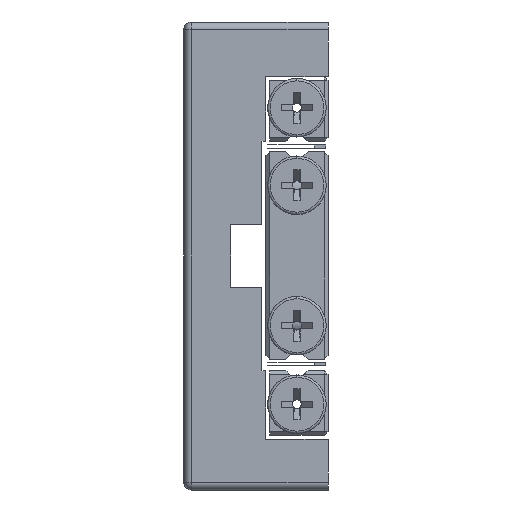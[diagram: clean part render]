
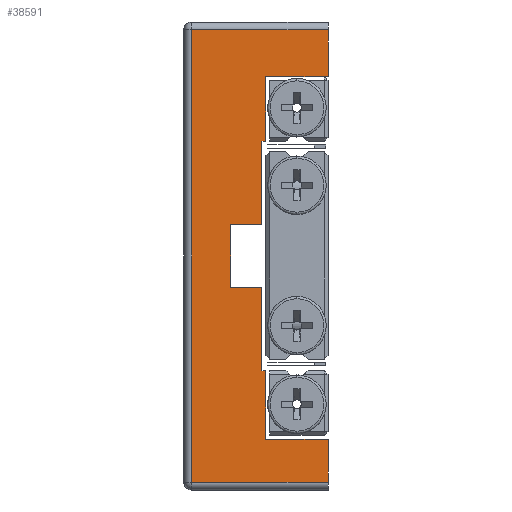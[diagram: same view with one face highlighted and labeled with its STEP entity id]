
A CAD part, left-side view. The second image highlights one B-rep face of the part: STEP entity #38591.
In plain terms, the highlighted planar face has unit normal (-1, 0, 0).
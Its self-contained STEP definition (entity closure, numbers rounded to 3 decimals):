
#936 = CARTESIAN_POINT ( 'NONE',  ( -92.084, -3.57, -30. ) ) ;
#943 = PLANE ( 'NONE',  #47008 ) ;
#945 = DIRECTION ( 'NONE',  ( 1., 0., 0. ) ) ;
#946 = DIRECTION ( 'NONE',  ( 0., 0., -1. ) ) ;
#6443 = VERTEX_POINT ( 'NONE', #10920 ) ;
#6680 = CARTESIAN_POINT ( 'NONE',  ( -92.084, -9.57, -4. ) ) ;
#6686 = CARTESIAN_POINT ( 'NONE',  ( -92.084, -13.57, 4. ) ) ;
#6720 = DIRECTION ( 'NONE',  ( 0., 0., -1. ) ) ;
#6797 = DIRECTION ( 'NONE',  ( 0., 0., -1. ) ) ;
#6807 = CARTESIAN_POINT ( 'NONE',  ( -92.084, -14.07, -23.5 ) ) ;
#6809 = DIRECTION ( 'NONE',  ( 0., 1., 0. ) ) ;
#6851 = CARTESIAN_POINT ( 'NONE',  ( -92.084, -9.57, 4. ) ) ;
#6854 = DIRECTION ( 'NONE',  ( 0., 1., 0. ) ) ;
#6869 = CARTESIAN_POINT ( 'NONE',  ( -92.084, -13.57, 14.7 ) ) ;
#6881 = DIRECTION ( 'NONE',  ( 0., -1., 0. ) ) ;
#6887 = CARTESIAN_POINT ( 'NONE',  ( -92.084, -13.57, -4. ) ) ;
#6890 = DIRECTION ( 'NONE',  ( 0., 0., -1. ) ) ;
#6895 = CARTESIAN_POINT ( 'NONE',  ( -92.084, -13.57, -14.7 ) ) ;
#6906 = DIRECTION ( 'NONE',  ( 0., 0., -1. ) ) ;
#6937 = DIRECTION ( 'NONE',  ( 0., -1., 0. ) ) ;
#6982 = CARTESIAN_POINT ( 'NONE',  ( -92.084, -14.07, -14.7 ) ) ;
#8758 = ORIENTED_EDGE ( 'NONE', *, *, #10501, .F. ) ;
#8792 = ORIENTED_EDGE ( 'NONE', *, *, #11226, .T. ) ;
#8793 = ORIENTED_EDGE ( 'NONE', *, *, #11224, .T. ) ;
#9633 = ORIENTED_EDGE ( 'NONE', *, *, #18861, .T. ) ;
#9639 = ORIENTED_EDGE ( 'NONE', *, *, #18940, .F. ) ;
#10439 = EDGE_CURVE ( 'NONE', #37112, #37034, #25541, .T. ) ;
#10456 = EDGE_CURVE ( 'NONE', #37034, #36866, #25565, .T. ) ;
#10471 = EDGE_CURVE ( 'NONE', #37192, #37040, #25591, .T. ) ;
#10475 = EDGE_CURVE ( 'NONE', #36866, #37192, #25598, .T. ) ;
#10486 = EDGE_CURVE ( 'NONE', #37040, #37109, #25615, .T. ) ;
#10492 = EDGE_CURVE ( 'NONE', #37109, #37342, #25623, .T. ) ;
#10501 = EDGE_CURVE ( 'NONE', #37342, #6443, #25637, .T. ) ;
#10508 = EDGE_CURVE ( 'NONE', #6443, #37092, #25647, .T. ) ;
#10920 = CARTESIAN_POINT ( 'NONE',  ( -92.084, -14.07, -14.7 ) ) ;
#11224 = EDGE_CURVE ( 'NONE', #37094, #27798, #19584, .T. ) ;
#11225 = EDGE_CURVE ( 'NONE', #37092, #27792, #19583, .T. ) ;
#11226 = EDGE_CURVE ( 'NONE', #27798, #27789, #19588, .T. ) ;
#11229 = EDGE_CURVE ( 'NONE', #27789, #27792, #19586, .T. ) ;
#11250 = EDGE_CURVE ( 'NONE', #36924, #36874, #19621, .T. ) ;
#14535 = EDGE_LOOP ( 'NONE', ( #8793, #8792, #31336, #31337, #31335, #8758, #31334, #31331, #31338, #31332, #31333, #31339, #31307, #9639, #31228, #9633 ) ) ;
#18861 = EDGE_CURVE ( 'NONE', #36874, #37094, #33317, .T. ) ;
#18940 = EDGE_CURVE ( 'NONE', #36924, #37089, #33587, .T. ) ;
#18955 = EDGE_CURVE ( 'NONE', #37089, #37112, #33639, .T. ) ;
#19583 = LINE ( 'NONE', #20486, #19589 ) ;
#19584 = LINE ( 'NONE', #20491, #19587 ) ;
#19586 = LINE ( 'NONE', #20505, #19596 ) ;
#19587 = VECTOR ( 'NONE', #20493, 1000. ) ;
#19588 = LINE ( 'NONE', #20497, #19591 ) ;
#19589 = VECTOR ( 'NONE', #20496, 1000. ) ;
#19591 = VECTOR ( 'NONE', #20499, 1000. ) ;
#19596 = VECTOR ( 'NONE', #20492, 1000. ) ;
#19621 = LINE ( 'NONE', #20662, #19627 ) ;
#19627 = VECTOR ( 'NONE', #20445, 1000. ) ;
#20445 = DIRECTION ( 'NONE',  ( 0., 0., 1. ) ) ;
#20486 = CARTESIAN_POINT ( 'NONE',  ( -92.084, -14.07, -23.5 ) ) ;
#20491 = CARTESIAN_POINT ( 'NONE',  ( -92.084, -4.57, -30. ) ) ;
#20492 = DIRECTION ( 'NONE',  ( 0., 0., 1. ) ) ;
#20493 = DIRECTION ( 'NONE',  ( 0., 0., -1. ) ) ;
#20496 = DIRECTION ( 'NONE',  ( 0., -1., 0. ) ) ;
#20497 = CARTESIAN_POINT ( 'NONE',  ( -92.084, -3.57, -29. ) ) ;
#20499 = DIRECTION ( 'NONE',  ( 0., -1., 0. ) ) ;
#20505 = CARTESIAN_POINT ( 'NONE',  ( -92.084, -22.07, -30. ) ) ;
#20662 = CARTESIAN_POINT ( 'NONE',  ( -92.084, -22.07, -30. ) ) ;
#25541 = LINE ( 'NONE', #6869, #25545 ) ;
#25545 = VECTOR ( 'NONE', #6854, 1000. ) ;
#25565 = LINE ( 'NONE', #6686, #25574 ) ;
#25574 = VECTOR ( 'NONE', #6720, 1000. ) ;
#25591 = LINE ( 'NONE', #6680, #25596 ) ;
#25596 = VECTOR ( 'NONE', #6797, 1000. ) ;
#25598 = LINE ( 'NONE', #6851, #25602 ) ;
#25602 = VECTOR ( 'NONE', #6809, 1000. ) ;
#25615 = LINE ( 'NONE', #6887, #25618 ) ;
#25618 = VECTOR ( 'NONE', #6881, 1000. ) ;
#25623 = LINE ( 'NONE', #6895, #25627 ) ;
#25627 = VECTOR ( 'NONE', #6906, 1000. ) ;
#25637 = LINE ( 'NONE', #6982, #25640 ) ;
#25640 = VECTOR ( 'NONE', #6937, 1000. ) ;
#25647 = LINE ( 'NONE', #6807, #25652 ) ;
#25652 = VECTOR ( 'NONE', #6890, 1000. ) ;
#27789 = VERTEX_POINT ( 'NONE', #49860 ) ;
#27792 = VERTEX_POINT ( 'NONE', #49863 ) ;
#27798 = VERTEX_POINT ( 'NONE', #49869 ) ;
#29311 = CARTESIAN_POINT ( 'NONE',  ( -92.084, -14.07, 23. ) ) ;
#29319 = DIRECTION ( 'NONE',  ( 0., 1., 0. ) ) ;
#29349 = CARTESIAN_POINT ( 'NONE',  ( -92.084, -14.07, 14.7 ) ) ;
#29350 = DIRECTION ( 'NONE',  ( 0., 0., -1. ) ) ;
#31228 = ORIENTED_EDGE ( 'NONE', *, *, #11250, .T. ) ;
#31307 = ORIENTED_EDGE ( 'NONE', *, *, #18955, .F. ) ;
#31331 = ORIENTED_EDGE ( 'NONE', *, *, #10486, .F. ) ;
#31332 = ORIENTED_EDGE ( 'NONE', *, *, #10475, .F. ) ;
#31333 = ORIENTED_EDGE ( 'NONE', *, *, #10456, .F. ) ;
#31334 = ORIENTED_EDGE ( 'NONE', *, *, #10492, .F. ) ;
#31335 = ORIENTED_EDGE ( 'NONE', *, *, #10508, .F. ) ;
#31336 = ORIENTED_EDGE ( 'NONE', *, *, #11229, .T. ) ;
#31337 = ORIENTED_EDGE ( 'NONE', *, *, #11225, .F. ) ;
#31338 = ORIENTED_EDGE ( 'NONE', *, *, #10471, .F. ) ;
#31339 = ORIENTED_EDGE ( 'NONE', *, *, #10439, .F. ) ;
#33317 = LINE ( 'NONE', #39073, #33322 ) ;
#33322 = VECTOR ( 'NONE', #39080, 1000. ) ;
#33587 = LINE ( 'NONE', #29311, #33598 ) ;
#33598 = VECTOR ( 'NONE', #29319, 1000. ) ;
#33639 = LINE ( 'NONE', #29349, #33644 ) ;
#33644 = VECTOR ( 'NONE', #29350, 1000. ) ;
#36866 = VERTEX_POINT ( 'NONE', #52204 ) ;
#36874 = VERTEX_POINT ( 'NONE', #52210 ) ;
#36924 = VERTEX_POINT ( 'NONE', #52268 ) ;
#37034 = VERTEX_POINT ( 'NONE', #52300 ) ;
#37040 = VERTEX_POINT ( 'NONE', #52306 ) ;
#37089 = VERTEX_POINT ( 'NONE', #52327 ) ;
#37092 = VERTEX_POINT ( 'NONE', #52335 ) ;
#37094 = VERTEX_POINT ( 'NONE', #52343 ) ;
#37109 = VERTEX_POINT ( 'NONE', #52350 ) ;
#37112 = VERTEX_POINT ( 'NONE', #52353 ) ;
#37192 = VERTEX_POINT ( 'NONE', #52401 ) ;
#37342 = VERTEX_POINT ( 'NONE', #52476 ) ;
#38591 = ADVANCED_FACE ( 'NONE', ( #51008 ), #943, .F. ) ;
#39073 = CARTESIAN_POINT ( 'NONE',  ( -92.084, -3.57, 29. ) ) ;
#39080 = DIRECTION ( 'NONE',  ( 0., 1., 0. ) ) ;
#47008 = AXIS2_PLACEMENT_3D ( 'NONE', #936, #945, #946 ) ;
#49860 = CARTESIAN_POINT ( 'NONE',  ( -92.084, -22.07, -29. ) ) ;
#49863 = CARTESIAN_POINT ( 'NONE',  ( -92.084, -22.07, -23.5 ) ) ;
#49869 = CARTESIAN_POINT ( 'NONE',  ( -92.084, -4.57, -29. ) ) ;
#51008 = FACE_OUTER_BOUND ( 'NONE', #14535, .T. ) ;
#52204 = CARTESIAN_POINT ( 'NONE',  ( -92.084, -13.57, 4. ) ) ;
#52210 = CARTESIAN_POINT ( 'NONE',  ( -92.084, -22.07, 29. ) ) ;
#52268 = CARTESIAN_POINT ( 'NONE',  ( -92.084, -22.07, 23. ) ) ;
#52300 = CARTESIAN_POINT ( 'NONE',  ( -92.084, -13.57, 14.7 ) ) ;
#52306 = CARTESIAN_POINT ( 'NONE',  ( -92.084, -9.57, -4. ) ) ;
#52327 = CARTESIAN_POINT ( 'NONE',  ( -92.084, -14.07, 23. ) ) ;
#52335 = CARTESIAN_POINT ( 'NONE',  ( -92.084, -14.07, -23.5 ) ) ;
#52343 = CARTESIAN_POINT ( 'NONE',  ( -92.084, -4.57, 29. ) ) ;
#52350 = CARTESIAN_POINT ( 'NONE',  ( -92.084, -13.57, -4. ) ) ;
#52353 = CARTESIAN_POINT ( 'NONE',  ( -92.084, -14.07, 14.7 ) ) ;
#52401 = CARTESIAN_POINT ( 'NONE',  ( -92.084, -9.57, 4. ) ) ;
#52476 = CARTESIAN_POINT ( 'NONE',  ( -92.084, -13.57, -14.7 ) ) ;
